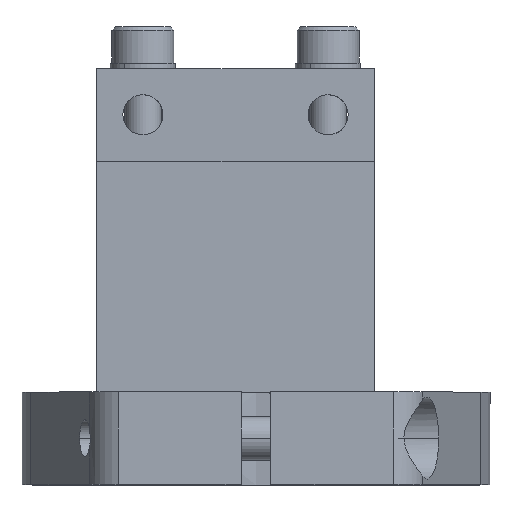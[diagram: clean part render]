
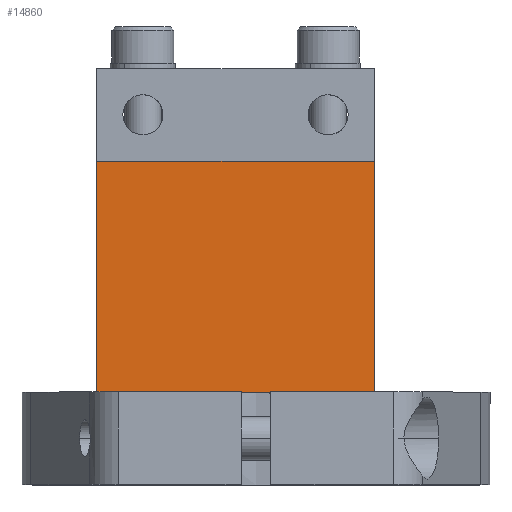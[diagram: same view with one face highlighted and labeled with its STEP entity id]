
A CAD part, top view. The second image highlights one B-rep face of the part: STEP entity #14860.
In plain terms, the highlighted planar face has unit normal (0, 0, 1) as drawn and (0, 0, -1) by its records, which use the part's own axes.
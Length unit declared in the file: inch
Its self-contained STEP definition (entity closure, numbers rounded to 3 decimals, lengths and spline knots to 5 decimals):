
#57 = DIRECTION ( 'NONE',  ( -1., 0., 0. ) ) ;
#58 = CARTESIAN_POINT ( 'NONE',  ( 0., 1.25, -0.375 ) ) ;
#6907 = ORIENTED_EDGE ( 'NONE', *, *, #19498, .T. ) ;
#6908 = ORIENTED_EDGE ( 'NONE', *, *, #19493, .F. ) ;
#6910 = ORIENTED_EDGE ( 'NONE', *, *, #19373, .F. ) ;
#6913 = ORIENTED_EDGE ( 'NONE', *, *, #19497, .T. ) ;
#14860 = ADVANCED_FACE ( 'NONE', ( #20415 ), #56497, .F. ) ;
#17615 = DIRECTION ( 'NONE',  ( -1., 0., 0. ) ) ;
#17616 = CARTESIAN_POINT ( 'NONE',  ( 0., 0., -0.375 ) ) ;
#17618 = DIRECTION ( 'NONE',  ( 0., -1., 0. ) ) ;
#17619 = CARTESIAN_POINT ( 'NONE',  ( 1.5, 1.25, -0.375 ) ) ;
#17626 = DIRECTION ( 'NONE',  ( 0., -1., 0. ) ) ;
#17627 = CARTESIAN_POINT ( 'NONE',  ( 0., 1.25, -0.375 ) ) ;
#19373 = EDGE_CURVE ( 'NONE', #43035, #43040, #22648, .T. ) ;
#19493 = EDGE_CURVE ( 'NONE', #43040, #42863, #22947, .T. ) ;
#19497 = EDGE_CURVE ( 'NONE', #43035, #42860, #22964, .T. ) ;
#19498 = EDGE_CURVE ( 'NONE', #42860, #42863, #22967, .T. ) ;
#20415 = FACE_OUTER_BOUND ( 'NONE', #64622, .T. ) ;
#20706 = AXIS2_PLACEMENT_3D ( 'NONE', #56496, #56495, #56494 ) ;
#22648 = LINE ( 'NONE', #58, #22650 ) ;
#22650 = VECTOR ( 'NONE', #57, 39.37008 ) ;
#22947 = LINE ( 'NONE', #17627, #22949 ) ;
#22949 = VECTOR ( 'NONE', #17626, 39.37008 ) ;
#22964 = LINE ( 'NONE', #17619, #22965 ) ;
#22965 = VECTOR ( 'NONE', #17618, 39.37008 ) ;
#22967 = LINE ( 'NONE', #17616, #22969 ) ;
#22969 = VECTOR ( 'NONE', #17615, 39.37008 ) ;
#34420 = CARTESIAN_POINT ( 'NONE',  ( 1.5, 0., -0.375 ) ) ;
#34428 = CARTESIAN_POINT ( 'NONE',  ( 0., 0., -0.375 ) ) ;
#34691 = CARTESIAN_POINT ( 'NONE',  ( 1.5, 1.25, -0.375 ) ) ;
#34697 = CARTESIAN_POINT ( 'NONE',  ( 0., 1.25, -0.375 ) ) ;
#42860 = VERTEX_POINT ( 'NONE', #34420 ) ;
#42863 = VERTEX_POINT ( 'NONE', #34428 ) ;
#43035 = VERTEX_POINT ( 'NONE', #34691 ) ;
#43040 = VERTEX_POINT ( 'NONE', #34697 ) ;
#56494 = DIRECTION ( 'NONE',  ( 1., 0., 0. ) ) ;
#56495 = DIRECTION ( 'NONE',  ( 0., 0., 1. ) ) ;
#56496 = CARTESIAN_POINT ( 'NONE',  ( 0., 1.25, -0.375 ) ) ;
#56497 = PLANE ( 'NONE',  #20706 ) ;
#64622 = EDGE_LOOP ( 'NONE', ( #6907, #6908, #6910, #6913 ) ) ;
